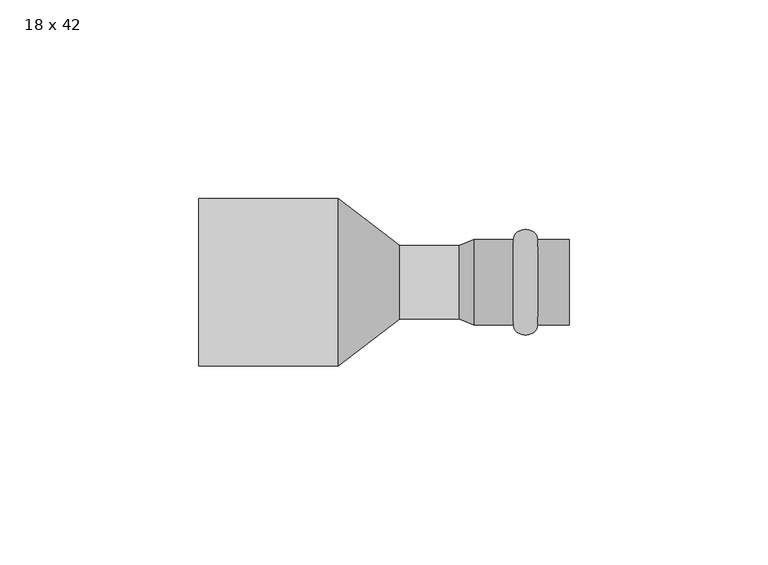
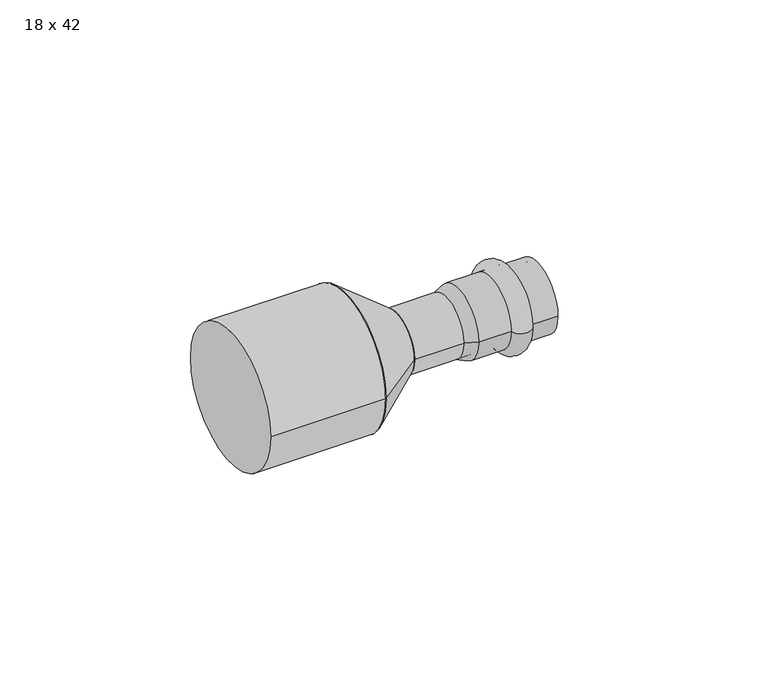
"""IFC4 building model written with IfcOpenShell, lengths in millimetres: pipe fitting geometry, РЕХАУ_Пресс Вставка переходная : 18 x 42."""

from ifc_helpers import new_model, si_unit, point, frame, origin, origin_2d, place, context, project, spatial, polyline, circle_curve, ellipse_curve, trimmed, segment, composite_curve, outline, extrude, source, transform, mapped, element, save
from ifc_brep_helpers import plane_surface, cylinder_surface, revolved_surface, advanced_brep


def pipe_fitting_18_x_42_19117a06(model_context):
    return source(origin(), model_context, "Body", "SolidModel", [
        advanced_brep(
        [(85.1, 10.75, 0.0), (85.1, -10.75, 0.0), (79.0, -10.75, 0.0), (79.0, 10.75, 0.0)],
        [
            (0, 1, circle_curve(frame((85.1, 0.0, 0.0), z_axis=(1.0, 0.0, 0.0), x_axis=(0.0, -1.0, 0.0)), 10.75)),
            (1, 2),
            (2, 3, circle_curve(frame((79.0, 0.0, 0.0), z_axis=(-1.0, 0.0, 0.0), x_axis=(0.0, -1.0, 0.0)), 10.75)),
            (3, 0),
            (1, 0, circle_curve(frame((85.1, 0.0, 0.0), z_axis=(1.0, 0.0, 0.0), x_axis=(0.0, -1.0, 0.0)), 10.75)),
            (3, 2, circle_curve(frame((79.0, 0.0, 0.0), z_axis=(-1.0, 0.0, 0.0), x_axis=(0.0, -1.0, 0.0)), 10.75)),
            (2, 1, ellipse_curve(frame((82.05, -10.75, 0.0), z_axis=(0.0, 0.0, 1.0), x_axis=(1.0, 0.0, 0.0)), 3.05, 2.5)),
            (0, 3, ellipse_curve(frame((82.05, 10.75, 0.0), z_axis=(0.0, 0.0, 1.0), x_axis=(1.0, 0.0, 0.0)), 3.05, 2.5)),
        ],
        [
            revolved_surface(polyline([(79.0, -10.75, 0.0), (85.1, -10.75, 0.0)]), (66.0, 0.0, 0.0), (-1.0, 0.0, 0.0)),
            revolved_surface(trimmed(ellipse_curve(frame((82.05, -10.75, 0.0), z_axis=(0.0, 0.0, -1.0), x_axis=(1.0, 0.0, 0.0)), 3.05, 2.5), [point((85.1, -10.75, 0.0))], [point((79.0, -10.75, 0.0))], True, "CARTESIAN"), (66.0, 0.0, 0.0), (-1.0, 0.0, 0.0)),
        ],
        [
            (0, [[1, 2, 3, 4]]),
            (0, [[5, -4, 6, -2]]),
            (1, [[-3, 7, -1, 8]]),
            (1, [[-6, -8, -5, -7]]),
        ],
    ),
        advanced_brep(
        [(65.4662215, 9.25, 0.0), (65.4662215, -9.25, 0.0), (69.0, -10.75, 0.0), (69.0, 10.75, 0.0), (93.0, 9.25, 0.0), (93.0, -9.25, 0.0), (93.0, 10.75, 0.0), (93.0, -10.75, 0.0)],
        [
            (0, 1, circle_curve(frame((65.4662215, 0.0, 0.0), z_axis=(1.0, 0.0, 0.0), x_axis=(0.0, -1.0, 0.0)), 9.25)),
            (1, 2),
            (2, 3, circle_curve(frame((69.0, 0.0, 0.0), z_axis=(-1.0, 0.0, 0.0), x_axis=(0.0, -1.0, 0.0)), 10.75)),
            (3, 0),
            (1, 0, circle_curve(frame((65.4662215, 0.0, 0.0), z_axis=(1.0, 0.0, 0.0), x_axis=(0.0, -1.0, 0.0)), 9.25)),
            (3, 2, circle_curve(frame((69.0, 0.0, 0.0), z_axis=(-1.0, 0.0, 0.0), x_axis=(0.0, -1.0, 0.0)), 10.75)),
            (4, 5, circle_curve(frame((93.0, 0.0, 0.0), z_axis=(1.0, 0.0, 0.0), x_axis=(0.0, -1.0, 0.0)), 9.25)),
            (5, 1),
            (0, 4),
            (5, 4, circle_curve(frame((93.0, 0.0, 0.0), z_axis=(1.0, 0.0, 0.0), x_axis=(0.0, -1.0, 0.0)), 9.25)),
            (6, 7, circle_curve(frame((93.0, 0.0, 0.0), z_axis=(1.0, 0.0, 0.0), x_axis=(0.0, -1.0, 0.0)), 10.75)),
            (7, 5),
            (4, 6),
            (7, 6, circle_curve(frame((93.0, 0.0, 0.0), z_axis=(1.0, 0.0, 0.0), x_axis=(0.0, -1.0, 0.0)), 10.75)),
            (2, 7),
            (6, 3),
        ],
        [
            revolved_surface(polyline([(69.0, -10.75, 0.0), (65.4662215, -9.25, 0.0)]), (66.0, 0.0, 0.0), (-1.0, 0.0, 0.0)),
            revolved_surface(polyline([(65.4662215, -9.25, 0.0), (93.0, -9.25, 0.0)]), (66.0, 0.0, 0.0), (-1.0, 0.0, 0.0)),
            plane_surface(frame((93.0, 0.0, 0.0), z_axis=(1.0, 0.0, 0.0), x_axis=(0.0, -1.0, 0.0))),
            cylinder_surface(frame((66.0, 0.0, 0.0), z_axis=(-1.0, 0.0, 0.0), x_axis=(0.0, -1.0, 0.0)), 10.75),
        ],
        [
            (0, [[1, 2, 3, 4]]),
            (0, [[5, -4, 6, -2]]),
            (1, [[7, 8, -1, 9]]),
            (1, [[10, -9, -5, -8]]),
            (2, [[11, 12, -7, 13]]),
            (2, [[14, -13, -10, -12]]),
            (3, [[-3, 15, -11, 16]]),
            (3, [[-6, -16, -14, -15]]),
        ],
    ),
        extrude(outline(composite_curve([segment(trimmed(circle_curve(origin_2d(), 9.25), [point((-9.25, 0.0))], [point((9.25, 0.0))], False, "CARTESIAN"), True, "CONTINUOUS"), segment(trimmed(circle_curve(origin_2d(), 9.25), [point((9.25, 0.0))], [point((-9.25, 0.0))], False, "CARTESIAN"), True, "CONTINUOUS")], self_intersect=False)), frame((50.45, 0.0, 0.0), z_axis=(1.0, 0.0, 0.0), x_axis=(0.0, 1.0, 0.0)), (0.0, 0.0, 1.0), 18.55),
        advanced_brep(
        [(50.45, -9.25, 0.0), (50.45, 9.25, 0.0), (35.0, -21.0, 0.0), (35.0, 21.0, 0.0)],
        [
            (0, 1, circle_curve(frame((50.45, 0.0, 0.0), z_axis=(1.0, 0.0, 0.0), x_axis=(0.0, -1.0, 0.0)), 9.25)),
            (1, 0, circle_curve(frame((50.45, 0.0, 0.0), z_axis=(1.0, 0.0, 0.0), x_axis=(0.0, 1.0, 0.0)), 9.25)),
            (2, 3, circle_curve(frame((35.0, 0.0, 0.0), z_axis=(-1.0, 0.0, 0.0), x_axis=(0.0, 1.0, 0.0)), 21.0)),
            (3, 2, circle_curve(frame((35.0, 0.0, 0.0), z_axis=(-1.0, 0.0, 0.0), x_axis=(0.0, -1.0, 0.0)), 21.0)),
            (3, 1),
            (0, 2),
        ],
        [
            plane_surface(frame((50.45, 0.0, 0.0), z_axis=(1.0, 0.0, 0.0), x_axis=(0.0, 0.0, -1.0))),
            plane_surface(frame((35.0, 0.0, 0.0), z_axis=(-1.0, 0.0, 0.0), x_axis=(0.0, 0.0, -1.0))),
            revolved_surface(polyline([(50.45, -9.250000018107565, 0.0), (35.0, -21.0, 0.0)]), (62.612766, 0.0, 0.0), (-1.0, 0.0, 0.0)),
            revolved_surface(polyline([(50.45, 9.250000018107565, 0.0), (35.0, 21.0, 0.0)]), (62.612766, 0.0, 0.0), (-1.0, 0.0, 0.0)),
        ],
        [
            (0, [[1, 2]]),
            (1, [[3, 4]]),
            (2, [[-4, 5, -1, 6]]),
            (3, [[-3, -6, -2, -5]]),
        ],
    ),
        extrude(outline(composite_curve([segment(trimmed(circle_curve(origin_2d(), 21.0), [point((-21.0, 0.0))], [point((21.0, 0.0))], False, "CARTESIAN"), True, "CONTINUOUS"), segment(trimmed(circle_curve(origin_2d(), 21.0), [point((21.0, 0.0))], [point((-21.0, 0.0))], False, "CARTESIAN"), True, "CONTINUOUS")], self_intersect=False)), frame((0.0, 0.0, 0.0), z_axis=(1.0, 0.0, 0.0), x_axis=(0.0, 1.0, 0.0)), (0.0, 0.0, 1.0), 35.0),
    ])


if __name__ == "__main__":
    model = new_model("IFC4")
    model_context = context("Model", 3, world=origin())
    ifc_project = project(units=[si_unit("LENGTHUNIT", "METRE", prefix="MILLI")], contexts=[model_context])
    site = spatial("IfcSite", under=ifc_project)
    building = spatial("IfcBuilding", under=site)
    placement = place(None, origin())
    pipe_fitting_18_x_42_shape = pipe_fitting_18_x_42_19117a06(model_context)
    element("IfcPipeFitting", 1, ObjectType="РЕХАУ_Пресс Вставка переходная : 18 x 42", at=placement, inside=building, context=model_context, shape_type="MappedRepresentation", body=[
        mapped(pipe_fitting_18_x_42_shape, transform((0.0, 0.0, 0.0), x_axis=(1.0, 0.0, 0.0), y_axis=(0.0, 1.0, 0.0), z_axis=(0.0, 0.0, 1.0))),
    ])
    save(model, "model.ifc")
